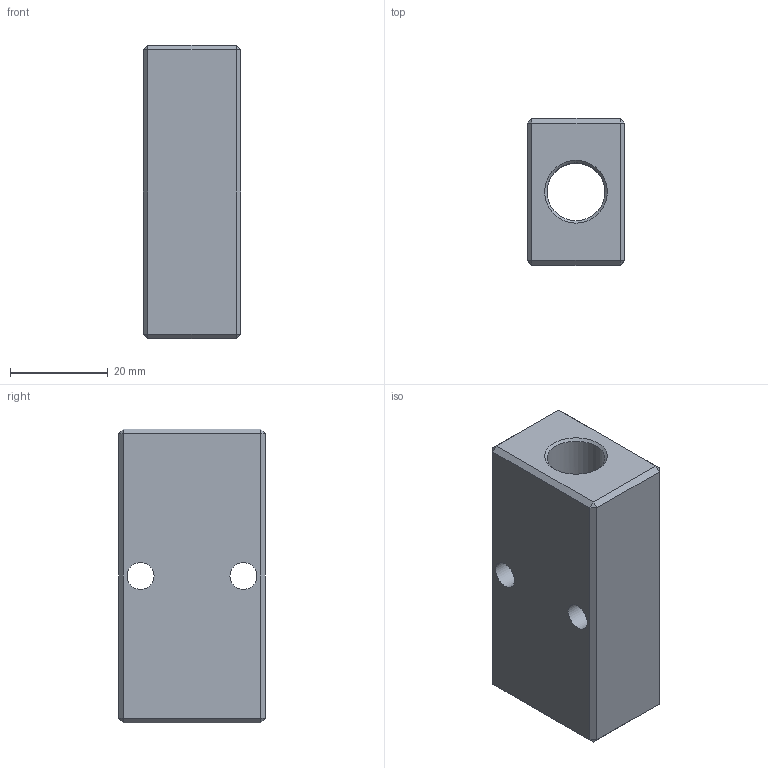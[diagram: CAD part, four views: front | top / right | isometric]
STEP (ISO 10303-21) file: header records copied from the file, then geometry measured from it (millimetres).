
FILE_DESCRIPTION(/* description */ (''),/* implementation_level */ '2;1');
FILE_NAME(/* name */ 'BXH87.stp',/* time_stamp */ '2024-11-14T19:03:17+01:00',/* author */ ('freju'),/* organization */ (''),/* preprocessor_version */ 'ST-DEVELOPER v20',/* originating_system */ 'Autodesk Inventor 2025',/* authorisation */ '');
FILE_SCHEMA (('AUTOMOTIVE_DESIGN { 1 0 10303 214 3 1 1 }'));
Length unit declared in the file: millimetre
Products named in the file (1): BXH87
Bounding box: 20 x 30 x 60 mm (x, y, z)
Volume: 27095.5 mm3; surface area: 9804.9 mm2
Topology: 1 solids, 1 shells, 35 faces, 75 edges, 42 vertices
Faces by surface type: plane 26, cylinder 5, cone 4
Full cylindrical faces by diameter (mm): 5.5 x2, 8.8 x2, 11.8 x1
Entity records: 1054 total; most frequent: CARTESIAN_POINT 235, DIRECTION 161, ORIENTED_EDGE 150, EDGE_CURVE 75, LINE 57, VECTOR 57, AXIS2_PLACEMENT_3D 52, EDGE_LOOP 45
